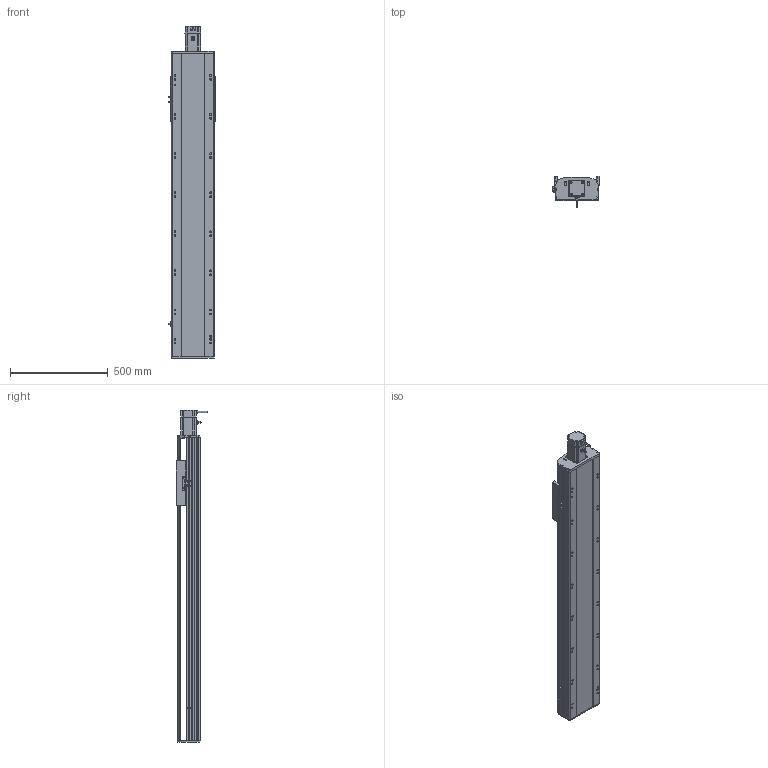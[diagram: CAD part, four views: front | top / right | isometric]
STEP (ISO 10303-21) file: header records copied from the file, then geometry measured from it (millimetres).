
FILE_DESCRIPTION (( 'STEP AP214' ), '1' );
FILE_NAME ('RTH22-XX-1150-E-M75-C4.STEP', '2025-10-24T10:48:05', ( 'Microsoft' ), ( 'Microsoft' ), 'SwSTEP 2.0', 'SolidWorks 2018', '' );
FILE_SCHEMA (( 'AUTOMOTIVE_DESIGN' ));
Length unit declared in the file: millimetre
Products named in the file (9): N_RTH22-GY-013外置感应片^RTH22-XX-XX-E-M75-C4; N_RTH22-E-011菁釱^RTH22-XX-XX-E-M75-C4; N_RTH22-E-004-SFS25賑釱^RTH22-XX-XX-E-M75-C4; N_RTH22-GY-001耜裔^RTH22-XX-XX-E-M75-C4; N_750W萇儂^RTH22-XX-XX-E-M75-C4; N_RTH22-E-008萇儂啣^RTH22-XX-XX-E-M75-C4; N_OMRON EE-SX672 传感器^RTH22-XX-XX-E-M75-C4; RTH22-XX-1150-E-M75-C4; N_RTH22-E-007奻裔^RTH22-XX-XX-E-M75-C4
Assembly tree (10 placements, depth 2):
  RTH22-XX-1150-E-M75-C4
    N_RTH22-E-011菁釱^RTH22-XX-XX-E-M75-C4
    N_RTH22-GY-001耜裔^RTH22-XX-XX-E-M75-C4
    N_RTH22-E-008萇儂啣^RTH22-XX-XX-E-M75-C4
    N_RTH22-E-007奻裔^RTH22-XX-XX-E-M75-C4
    N_RTH22-GY-013外置感应片^RTH22-XX-XX-E-M75-C4
    N_RTH22-E-004-SFS25賑釱^RTH22-XX-XX-E-M75-C4
    N_750W萇儂^RTH22-XX-XX-E-M75-C4
    N_OMRON EE-SX672 传感器^RTH22-XX-XX-E-M75-C4  x3
Bounding box: 238.5 x 160.7 x 1699 mm (x, y, z)
Volume: 21183159.7 mm3; surface area: 2182237.6 mm2
Topology: 10 solids, 10 shells, 1559 faces, 4274 edges, 2759 vertices
Faces by surface type: plane 758, cylinder 460, bspline 279, cone 62
Entity records: 39261 total; most frequent: CARTESIAN_POINT 12265, ORIENTED_EDGE 5516, DIRECTION 5204, EDGE_CURVE 2758, VERTEX_POINT 1795, AXIS2_PLACEMENT_3D 1762, LINE 1680, VECTOR 1680
